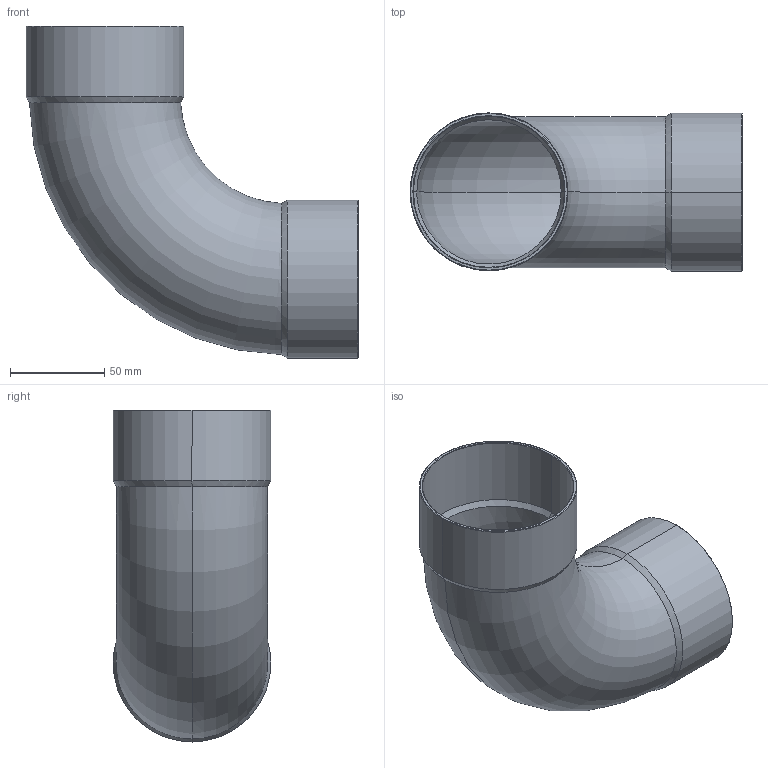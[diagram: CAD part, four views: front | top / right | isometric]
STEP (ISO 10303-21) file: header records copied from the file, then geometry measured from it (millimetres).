
FILE_DESCRIPTION((''),'2;1');
FILE_NAME('D:\5002\15002a80.stp','2005-10-04T12:59:29',('Kris'),(''),'Autodesk Inventor 8','Autodesk Inventor 8','');
FILE_SCHEMA(('AUTOMOTIVE_DESIGN { 1 0 10303 214 1 1 1 1 }'));
Length unit declared in the file: millimetre
Products named in the file (1): 15002a80
Bounding box: 175.8 x 83.6 x 175.8 mm (x, y, z)
Volume: 102258 mm3; surface area: 114415.1 mm2
Topology: 1 solids, 1 shells, 30 faces, 60 edges, 32 vertices
Faces by surface type: cone 12, bspline 9, torus 4, cylinder 4, plane 1
Entity records: 1027 total; most frequent: CARTESIAN_POINT 414, DIRECTION 124, ORIENTED_EDGE 120, EDGE_CURVE 60, AXIS2_PLACEMENT_3D 50, VERTEX_POINT 32, EDGE_LOOP 32, FACE_OUTER_BOUND 30
